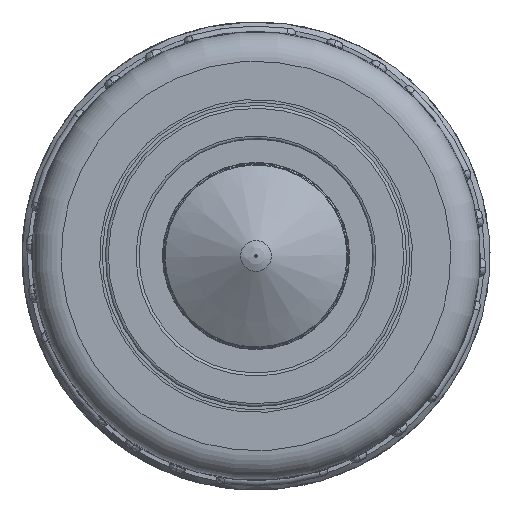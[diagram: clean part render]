
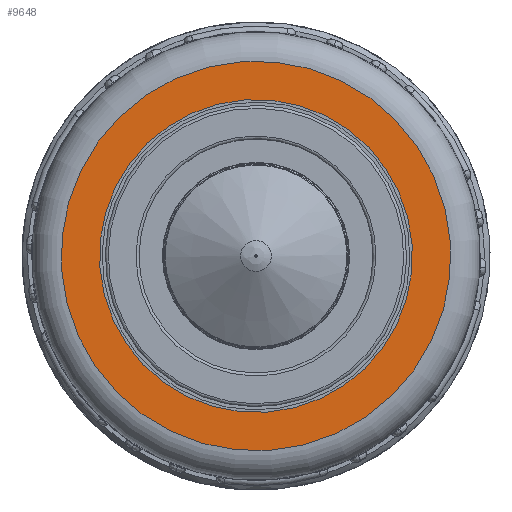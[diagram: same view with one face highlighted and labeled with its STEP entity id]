
A CAD part, front view. The second image highlights one B-rep face of the part: STEP entity #9648.
In plain terms, the highlighted planar face has unit normal (0, -1, 0) by its records, which use the part's own axes.
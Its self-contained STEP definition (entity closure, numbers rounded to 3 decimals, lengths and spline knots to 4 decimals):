
#1864=FACE_BOUND('',#2869,.T.);
#2230=FACE_OUTER_BOUND('',#2868,.T.);
#2868=EDGE_LOOP('',(#7371));
#2869=EDGE_LOOP('',(#7372));
#3396=CIRCLE('',#10430,3.33);
#3397=CIRCLE('',#10431,2.675);
#4132=VERTEX_POINT('',#38163);
#4133=VERTEX_POINT('',#38165);
#5294=EDGE_CURVE('',#4132,#4132,#3396,.T.);
#5295=EDGE_CURVE('',#4133,#4133,#3397,.T.);
#7371=ORIENTED_EDGE('',*,*,#5294,.F.);
#7372=ORIENTED_EDGE('',*,*,#5295,.T.);
#8678=PLANE('',#10429);
#9648=ADVANCED_FACE('',(#2230,#1864),#8678,.T.);
#10429=AXIS2_PLACEMENT_3D('',#38162,#12219,#12220);
#10430=AXIS2_PLACEMENT_3D('',#38164,#12221,#12222);
#10431=AXIS2_PLACEMENT_3D('',#38166,#12223,#12224);
#12219=DIRECTION('center_axis',(0.,-1.,0.));
#12220=DIRECTION('ref_axis',(-0.562,0.,0.827));
#12221=DIRECTION('center_axis',(0.,1.,0.));
#12222=DIRECTION('ref_axis',(-0.827,0.,-0.562));
#12223=DIRECTION('center_axis',(0.,1.,0.));
#12224=DIRECTION('ref_axis',(-0.827,0.,-0.562));
#38162=CARTESIAN_POINT('Origin',(2.7544,-4.5001,1.8714));
#38163=CARTESIAN_POINT('',(2.7544,-4.5001,1.8714));
#38164=CARTESIAN_POINT('Origin',(0.,-4.5001,
0.));
#38165=CARTESIAN_POINT('',(2.2126,-4.5001,1.5033));
#38166=CARTESIAN_POINT('Origin',(0.,-4.5001,
0.));
